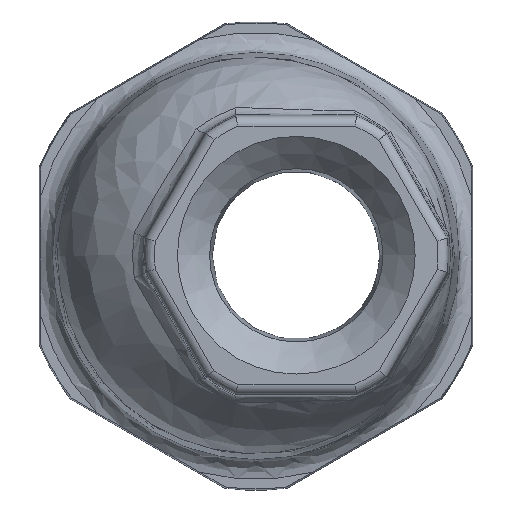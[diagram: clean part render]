
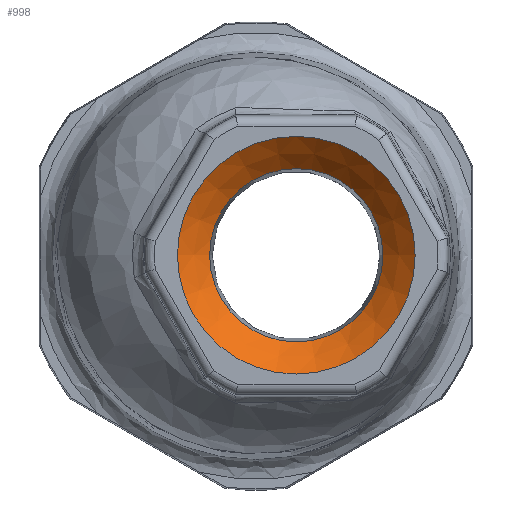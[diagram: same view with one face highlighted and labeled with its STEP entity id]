
A CAD part, top view. The second image highlights one B-rep face of the part: STEP entity #998.
In plain terms, the highlighted conical face has half-angle 45.9 degrees and reference radius 10.201 mm.
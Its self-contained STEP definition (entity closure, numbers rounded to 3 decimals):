
#971=CARTESIAN_POINT('',(4.,0.,43.451));
#972=DIRECTION('',(0.,0.,1.0));
#973=DIRECTION('',(-1.0,0.0,0.0));
#974=AXIS2_PLACEMENT_3D('',#971,#972,#973);
#975=CONICAL_SURFACE('',#974,10.201,45.9);
#976=CARTESIAN_POINT('',(12.603,0.,41.902));
#977=VERTEX_POINT('',#976);
#978=CARTESIAN_POINT('',(4.,0.,41.902));
#979=DIRECTION('',(0.0,0.0,-1.0));
#980=DIRECTION('',(-1.0,0.0,0.0));
#981=AXIS2_PLACEMENT_3D('',#978,#979,#980);
#982=CIRCLE('',#981,8.603);
#983=EDGE_CURVE('',#977,#977,#982,.T.);
#984=ORIENTED_EDGE('',*,*,#983,.T.);
#985=EDGE_LOOP('',(#984));
#986=FACE_OUTER_BOUND('',#985,.T.);
#987=CARTESIAN_POINT('',(15.8,0.,45.0));
#988=VERTEX_POINT('',#987);
#989=CARTESIAN_POINT('',(4.,0.,45.0));
#990=DIRECTION('',(0.0,0.0,1.0));
#991=DIRECTION('',(-1.0,0.0,0.0));
#992=AXIS2_PLACEMENT_3D('',#989,#990,#991);
#993=CIRCLE('',#992,11.8);
#994=EDGE_CURVE('',#988,#988,#993,.T.);
#995=ORIENTED_EDGE('',*,*,#994,.T.);
#996=EDGE_LOOP('',(#995));
#997=FACE_BOUND('',#996,.T.);
#998=ADVANCED_FACE('',(#986,#997),#975,.F.);
